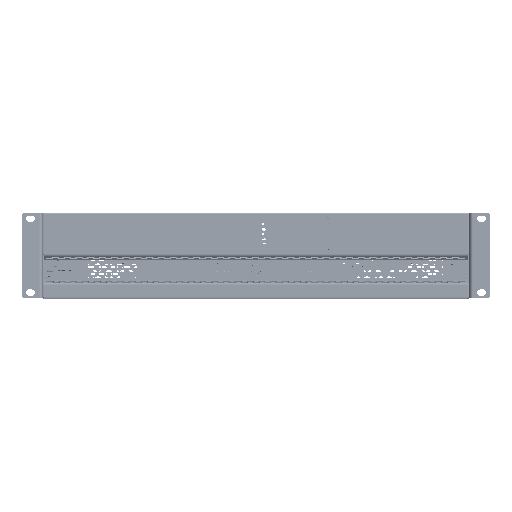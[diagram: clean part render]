
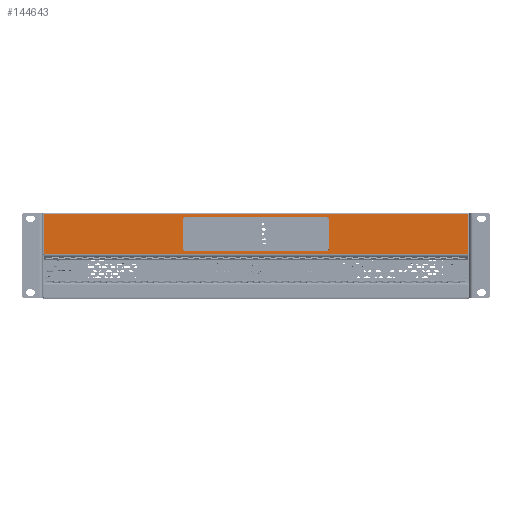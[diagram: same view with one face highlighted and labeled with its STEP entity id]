
A CAD part, top view. The second image highlights one B-rep face of the part: STEP entity #144643.
In plain terms, the highlighted planar face has unit normal (0, 0, 1).
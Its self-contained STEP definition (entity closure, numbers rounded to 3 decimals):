
#13678 = CARTESIAN_POINT ( 'NONE',  ( 945.535, 1202.783, 1809.491 ) ) ;
#18517 = CARTESIAN_POINT ( 'NONE',  ( 873.535, 1217.283, 1809.491 ) ) ;
#19669 = CIRCLE ( 'NONE', #501288, 1. ) ;
#23460 = EDGE_CURVE ( 'NONE', #137897, #306055, #518019, .T. ) ;
#28805 = DIRECTION ( 'NONE',  ( 0., 0., 1. ) ) ;
#29943 = VECTOR ( 'NONE', #257367, 1000. ) ;
#34849 = CARTESIAN_POINT ( 'NONE',  ( 1163.535, 1182.883, 1809.491 ) ) ;
#36086 = ORIENTED_EDGE ( 'NONE', *, *, #207920, .T. ) ;
#36669 = CARTESIAN_POINT ( 'NONE',  ( 1017.535, 1184.983, 1809.491 ) ) ;
#40458 = CARTESIAN_POINT ( 'NONE',  ( 727.535, 1181.883, 1809.491 ) ) ;
#40629 = CARTESIAN_POINT ( 'NONE',  ( 1163.535, 1223.683, 1809.491 ) ) ;
#40902 = ORIENTED_EDGE ( 'NONE', *, *, #71742, .T. ) ;
#43472 = ORIENTED_EDGE ( 'NONE', *, *, #105416, .T. ) ;
#45622 = CARTESIAN_POINT ( 'NONE',  ( 870.235, 1217.283, 1809.491 ) ) ;
#63248 = ORIENTED_EDGE ( 'NONE', *, *, #355419, .T. ) ;
#64604 = VECTOR ( 'NONE', #237206, 1000. ) ;
#65927 = CARTESIAN_POINT ( 'NONE',  ( 945.535, 1181.883, 1809.491 ) ) ;
#71742 = EDGE_CURVE ( 'NONE', #413431, #402617, #329819, .T. ) ;
#85861 = AXIS2_PLACEMENT_3D ( 'NONE', #34849, #559360, #92991 ) ;
#86042 = VERTEX_POINT ( 'NONE', #161578 ) ;
#87517 = CIRCLE ( 'NONE', #339522, 3.3 ) ;
#90806 = AXIS2_PLACEMENT_3D ( 'NONE', #487123, #480362, #579862 ) ;
#92991 = DIRECTION ( 'NONE',  ( -1., 0., 0. ) ) ;
#94387 = EDGE_CURVE ( 'NONE', #455352, #592710, #325160, .T. ) ;
#102695 = ORIENTED_EDGE ( 'NONE', *, *, #489979, .T. ) ;
#105416 = EDGE_CURVE ( 'NONE', #221651, #211378, #593963, .T. ) ;
#109009 = ORIENTED_EDGE ( 'NONE', *, *, #660491, .T. ) ;
#111317 = CARTESIAN_POINT ( 'NONE',  ( 873.535, 1184.983, 1809.491 ) ) ;
#123272 = FACE_BOUND ( 'NONE', #156363, .T. ) ;
#124233 = CARTESIAN_POINT ( 'NONE',  ( 945.535, 1184.983, 1809.491 ) ) ;
#130022 = FACE_OUTER_BOUND ( 'NONE', #271947, .T. ) ;
#134021 = ORIENTED_EDGE ( 'NONE', *, *, #329038, .T. ) ;
#137897 = VERTEX_POINT ( 'NONE', #632210 ) ;
#144643 = ADVANCED_FACE ( 'NONE', ( #130022, #123272 ), #548363, .F. ) ;
#144888 = CARTESIAN_POINT ( 'NONE',  ( 873.535, 1188.283, 1809.491 ) ) ;
#145070 = LINE ( 'NONE', #45622, #560758 ) ;
#153559 = CIRCLE ( 'NONE', #306814, 1. ) ;
#156363 = EDGE_LOOP ( 'NONE', ( #63248, #192880, #233590, #200660, #340144, #400439, #43472, #181447 ) ) ;
#161578 = CARTESIAN_POINT ( 'NONE',  ( 870.235, 1188.283, 1809.491 ) ) ;
#162642 = VECTOR ( 'NONE', #486243, 1000. ) ;
#163046 = VECTOR ( 'NONE', #390906, 1000. ) ;
#171119 = CARTESIAN_POINT ( 'NONE',  ( 1164.535, 1222.683, 1809.491 ) ) ;
#171360 = DIRECTION ( 'NONE',  ( -1., 0., 0. ) ) ;
#181447 = ORIENTED_EDGE ( 'NONE', *, *, #189675, .T. ) ;
#189675 = EDGE_CURVE ( 'NONE', #211378, #86042, #629930, .T. ) ;
#189780 = CARTESIAN_POINT ( 'NONE',  ( 727.535, 1222.683, 1809.491 ) ) ;
#192880 = ORIENTED_EDGE ( 'NONE', *, *, #270093, .T. ) ;
#196229 = VERTEX_POINT ( 'NONE', #437495 ) ;
#199084 = DIRECTION ( 'NONE',  ( -1., 0., 0. ) ) ;
#200660 = ORIENTED_EDGE ( 'NONE', *, *, #671451, .T. ) ;
#207920 = EDGE_CURVE ( 'NONE', #422375, #196229, #153559, .T. ) ;
#209701 = AXIS2_PLACEMENT_3D ( 'NONE', #668913, #565995, #199084 ) ;
#211378 = VERTEX_POINT ( 'NONE', #111317 ) ;
#217937 = VERTEX_POINT ( 'NONE', #40629 ) ;
#221651 = VERTEX_POINT ( 'NONE', #36669 ) ;
#221996 = DIRECTION ( 'NONE',  ( 0., 0., 1. ) ) ;
#231724 = CIRCLE ( 'NONE', #209701, 3.3 ) ;
#233590 = ORIENTED_EDGE ( 'NONE', *, *, #300483, .T. ) ;
#233810 = CARTESIAN_POINT ( 'NONE',  ( 945.535, 1223.683, 1809.491 ) ) ;
#234007 = VERTEX_POINT ( 'NONE', #656836 ) ;
#237206 = DIRECTION ( 'NONE',  ( -1., 0., 0. ) ) ;
#239879 = VECTOR ( 'NONE', #519256, 1000. ) ;
#244953 = ORIENTED_EDGE ( 'NONE', *, *, #646606, .T. ) ;
#253118 = VECTOR ( 'NONE', #339909, 1000. ) ;
#257367 = DIRECTION ( 'NONE',  ( 0., 1., 0. ) ) ;
#260805 = CARTESIAN_POINT ( 'NONE',  ( 1164.535, 1202.783, 1809.491 ) ) ;
#270093 = EDGE_CURVE ( 'NONE', #234007, #607605, #509400, .T. ) ;
#271947 = EDGE_LOOP ( 'NONE', ( #244953, #36086, #588695, #109009, #40902, #134021, #364930, #102695 ) ) ;
#272567 = CARTESIAN_POINT ( 'NONE',  ( 1017.535, 1188.283, 1809.491 ) ) ;
#275716 = DIRECTION ( 'NONE',  ( 0., 0., -1. ) ) ;
#287751 = DIRECTION ( 'NONE',  ( 0., 0., -1. ) ) ;
#300483 = EDGE_CURVE ( 'NONE', #607605, #663499, #567283, .T. ) ;
#302221 = CARTESIAN_POINT ( 'NONE',  ( 1163.535, 1181.883, 1809.491 ) ) ;
#306055 = VERTEX_POINT ( 'NONE', #171119 ) ;
#306814 = AXIS2_PLACEMENT_3D ( 'NONE', #189780, #28805, #388814 ) ;
#309517 = CIRCLE ( 'NONE', #90806, 1. ) ;
#310056 = CARTESIAN_POINT ( 'NONE',  ( 1017.535, 1220.583, 1809.491 ) ) ;
#315053 = CARTESIAN_POINT ( 'NONE',  ( 1017.535, 1220.583, 1809.491 ) ) ;
#325160 = LINE ( 'NONE', #530982, #162642 ) ;
#327362 = DIRECTION ( 'NONE',  ( -1., 0., 0. ) ) ;
#329038 = EDGE_CURVE ( 'NONE', #402617, #137897, #600247, .T. ) ;
#329819 = LINE ( 'NONE', #65927, #253118 ) ;
#333841 = AXIS2_PLACEMENT_3D ( 'NONE', #13678, #287751, #171360 ) ;
#339522 = AXIS2_PLACEMENT_3D ( 'NONE', #272567, #375353, #327362 ) ;
#339909 = DIRECTION ( 'NONE',  ( 1., 0., 0. ) ) ;
#340144 = ORIENTED_EDGE ( 'NONE', *, *, #94387, .T. ) ;
#355419 = EDGE_CURVE ( 'NONE', #86042, #234007, #145070, .T. ) ;
#357583 = DIRECTION ( 'NONE',  ( 0., 1., 0. ) ) ;
#364174 = DIRECTION ( 'NONE',  ( 0., 0., -1. ) ) ;
#364930 = ORIENTED_EDGE ( 'NONE', *, *, #23460, .T. ) ;
#375353 = DIRECTION ( 'NONE',  ( 0., 0., -1. ) ) ;
#387514 = CARTESIAN_POINT ( 'NONE',  ( 726.535, 1202.783, 1809.491 ) ) ;
#388814 = DIRECTION ( 'NONE',  ( -1., 0., 0. ) ) ;
#388897 = AXIS2_PLACEMENT_3D ( 'NONE', #18517, #275716, #591100 ) ;
#390906 = DIRECTION ( 'NONE',  ( 0., -1., 0. ) ) ;
#400439 = ORIENTED_EDGE ( 'NONE', *, *, #656132, .T. ) ;
#400896 = CARTESIAN_POINT ( 'NONE',  ( 726.535, 1182.883, 1809.491 ) ) ;
#402617 = VERTEX_POINT ( 'NONE', #302221 ) ;
#413431 = VERTEX_POINT ( 'NONE', #40458 ) ;
#421080 = CARTESIAN_POINT ( 'NONE',  ( 1163.535, 1222.683, 1809.491 ) ) ;
#422375 = VERTEX_POINT ( 'NONE', #647657 ) ;
#427830 = DIRECTION ( 'NONE',  ( -1., 0., 0. ) ) ;
#437495 = CARTESIAN_POINT ( 'NONE',  ( 726.535, 1222.683, 1809.491 ) ) ;
#455352 = VERTEX_POINT ( 'NONE', #473704 ) ;
#460329 = DIRECTION ( 'NONE',  ( -1., 0., 0. ) ) ;
#473704 = CARTESIAN_POINT ( 'NONE',  ( 1020.835, 1217.283, 1809.491 ) ) ;
#480362 = DIRECTION ( 'NONE',  ( 0., 0., 1. ) ) ;
#486243 = DIRECTION ( 'NONE',  ( 0., -1., 0. ) ) ;
#487123 = CARTESIAN_POINT ( 'NONE',  ( 727.535, 1182.883, 1809.491 ) ) ;
#489979 = EDGE_CURVE ( 'NONE', #306055, #217937, #19669, .T. ) ;
#492301 = CARTESIAN_POINT ( 'NONE',  ( 873.535, 1220.583, 1809.491 ) ) ;
#500622 = LINE ( 'NONE', #387514, #163046 ) ;
#501288 = AXIS2_PLACEMENT_3D ( 'NONE', #421080, #221996, #427830 ) ;
#509400 = CIRCLE ( 'NONE', #388897, 3.3 ) ;
#518019 = LINE ( 'NONE', #260805, #29943 ) ;
#519256 = DIRECTION ( 'NONE',  ( 1., 0., 0. ) ) ;
#520304 = AXIS2_PLACEMENT_3D ( 'NONE', #144888, #364174, #460329 ) ;
#530982 = CARTESIAN_POINT ( 'NONE',  ( 1020.835, 1202.783, 1809.491 ) ) ;
#548363 = PLANE ( 'NONE',  #333841 ) ;
#559360 = DIRECTION ( 'NONE',  ( 0., 0., 1. ) ) ;
#560758 = VECTOR ( 'NONE', #357583, 1000. ) ;
#562757 = LINE ( 'NONE', #233810, #64604 ) ;
#565995 = DIRECTION ( 'NONE',  ( 0., 0., -1. ) ) ;
#567283 = LINE ( 'NONE', #310056, #239879 ) ;
#576131 = EDGE_CURVE ( 'NONE', #196229, #659506, #500622, .T. ) ;
#579862 = DIRECTION ( 'NONE',  ( -1., 0., 0. ) ) ;
#585522 = VECTOR ( 'NONE', #648792, 1000. ) ;
#588695 = ORIENTED_EDGE ( 'NONE', *, *, #576131, .T. ) ;
#591100 = DIRECTION ( 'NONE',  ( -1., 0., 0. ) ) ;
#592710 = VERTEX_POINT ( 'NONE', #619174 ) ;
#593963 = LINE ( 'NONE', #124233, #585522 ) ;
#600247 = CIRCLE ( 'NONE', #85861, 1. ) ;
#607605 = VERTEX_POINT ( 'NONE', #492301 ) ;
#619174 = CARTESIAN_POINT ( 'NONE',  ( 1020.835, 1188.283, 1809.491 ) ) ;
#629930 = CIRCLE ( 'NONE', #520304, 3.3 ) ;
#632210 = CARTESIAN_POINT ( 'NONE',  ( 1164.535, 1182.883, 1809.491 ) ) ;
#646606 = EDGE_CURVE ( 'NONE', #217937, #422375, #562757, .T. ) ;
#647657 = CARTESIAN_POINT ( 'NONE',  ( 727.535, 1223.683, 1809.491 ) ) ;
#648792 = DIRECTION ( 'NONE',  ( -1., 0., 0. ) ) ;
#656132 = EDGE_CURVE ( 'NONE', #592710, #221651, #87517, .T. ) ;
#656836 = CARTESIAN_POINT ( 'NONE',  ( 870.235, 1217.283, 1809.491 ) ) ;
#659506 = VERTEX_POINT ( 'NONE', #400896 ) ;
#660491 = EDGE_CURVE ( 'NONE', #659506, #413431, #309517, .T. ) ;
#663499 = VERTEX_POINT ( 'NONE', #315053 ) ;
#668913 = CARTESIAN_POINT ( 'NONE',  ( 1017.535, 1217.283, 1809.491 ) ) ;
#671451 = EDGE_CURVE ( 'NONE', #663499, #455352, #231724, .T. ) ;
